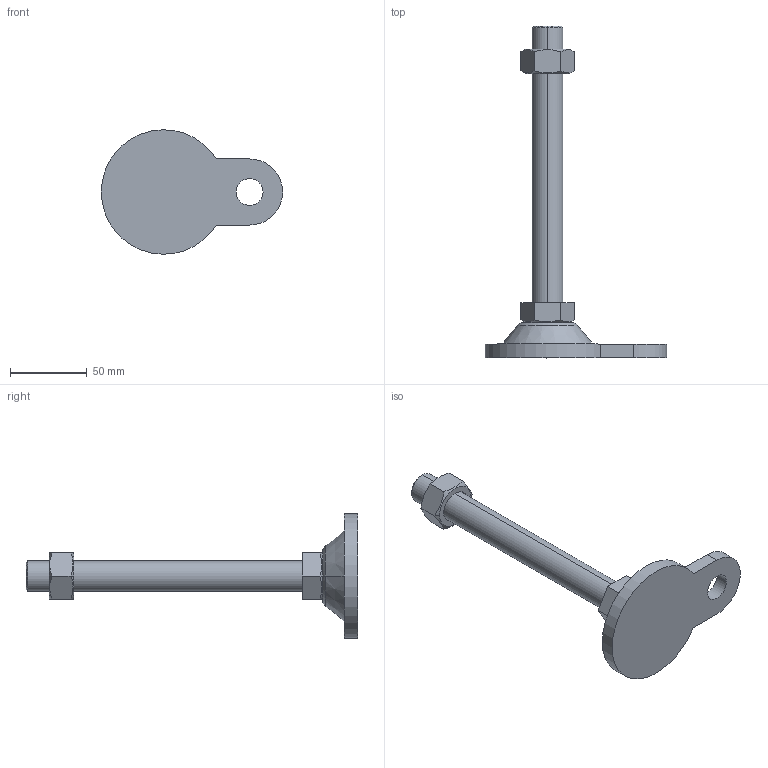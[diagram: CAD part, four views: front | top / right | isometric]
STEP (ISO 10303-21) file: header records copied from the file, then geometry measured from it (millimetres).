
FILE_DESCRIPTION (( 'STEP AP214' ), '1' );
FILE_NAME ('ARB81-M20-180.step', '2021-01-07T07:18:16', ( '' ), ( '' ), 'SwSTEP 2.0', 'SolidWorks 2019', '' );
FILE_SCHEMA (( 'AUTOMOTIVE_DESIGN' ));
Length unit declared in the file: millimetre
Products named in the file (1): ARB81-M20-180
Bounding box: 118 x 216 x 80.98 mm (x, y, z)
Volume: 156524.5 mm3; surface area: 34654.4 mm2
Topology: 3 solids, 3 shells, 46 faces, 100 edges, 62 vertices
Faces by surface type: plane 22, cone 14, cylinder 8, torus 2
Entity records: 1482 total; most frequent: CARTESIAN_POINT 419, DIRECTION 212, ORIENTED_EDGE 200, EDGE_CURVE 100, AXIS2_PLACEMENT_3D 83, VERTEX_POINT 62, EDGE_LOOP 52, LINE 46
